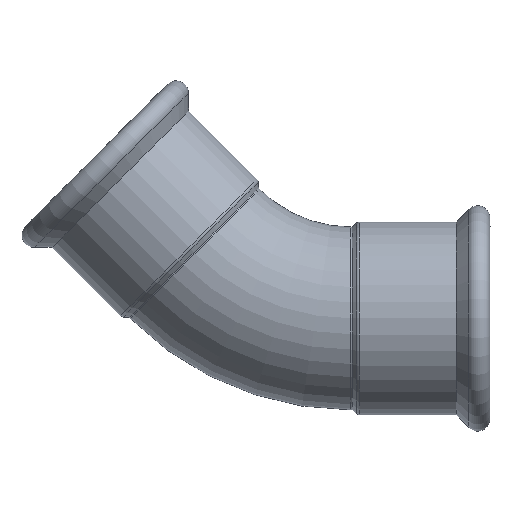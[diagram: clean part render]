
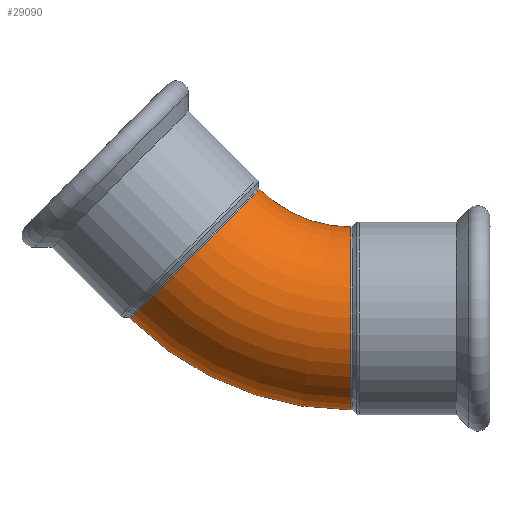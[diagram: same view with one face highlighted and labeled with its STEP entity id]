
A CAD part, top view. The second image highlights one B-rep face of the part: STEP entity #29090.
In plain terms, the highlighted toroidal (fillet/blend) face has major radius 107 mm and minor radius 44.45 mm.
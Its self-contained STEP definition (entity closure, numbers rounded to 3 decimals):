
#13560=CARTESIAN_POINT('',(3.321,-44.45,0.
));
#13570=VERTEX_POINT('',#13560);
#13650=CARTESIAN_POINT('',(3.321,44.45,0.));
#13660=VERTEX_POINT('',#13650);
#13790=CARTESIAN_POINT('',(3.321,-107.,0.));
#13800=DIRECTION('',(0.,0.,1.));
#13810=DIRECTION('',(0.,1.,0.));
#13820=AXIS2_PLACEMENT_3D('',#13790,#13800,#13810);
#13830=TOROIDAL_SURFACE('',#13820,107.,44.45);
#13840=CARTESIAN_POINT('',(3.321,-107.,0.)
);
#13850=DIRECTION('',(0.,0.,1.));
#13860=DIRECTION('',(0.,1.,0.));
#13870=AXIS2_PLACEMENT_3D('',#13840,#13850,#13860);
#13880=CIRCLE('',#13870,62.55);
#13890=CARTESIAN_POINT('',(-40.909,-62.77,
0.));
#13900=VERTEX_POINT('',#13890);
#13910=EDGE_CURVE('',#13570,#13900,#13880,.T.);
#13940=CARTESIAN_POINT('',(3.321,-107.,0.)
);
#13950=DIRECTION('',(0.,0.,1.));
#13960=DIRECTION('',(0.,1.,0.));
#13970=AXIS2_PLACEMENT_3D('',#13940,#13950,#13960);
#13980=CIRCLE('',#13970,151.45);
#13990=CARTESIAN_POINT('',(-103.77,0.091,
0.));
#14000=VERTEX_POINT('',#13990);
#14010=EDGE_CURVE('',#13660,#14000,#13980,.T.);
#14030=CARTESIAN_POINT('',(-72.34,-31.34,0.));
#14040=DIRECTION('',(0.707,0.707,0.));
#14050=DIRECTION('',(-0.707,0.707,0.));
#14060=AXIS2_PLACEMENT_3D('',#14030,#14040,#14050);
#14070=CIRCLE('',#14060,44.45);
#28960=EDGE_CURVE('',#14000,#13900,#14070,.T.);
#28970=ORIENTED_EDGE('',*,*,#28960,.T.);
#28980=ORIENTED_EDGE('',*,*,#14010,.T.);
#28990=CARTESIAN_POINT('',(3.321,0.,0.));
#29000=DIRECTION('',(-1.,0.,0.));
#29010=DIRECTION('',(0.,1.,0.));
#29020=AXIS2_PLACEMENT_3D('',#28990,#29000,#29010);
#29030=CIRCLE('',#29020,44.45);
#29040=EDGE_CURVE('',#13570,#13660,#29030,.T.);
#29050=ORIENTED_EDGE('',*,*,#29040,.T.);
#29060=ORIENTED_EDGE('',*,*,#13910,.F.);
#29070=EDGE_LOOP('',(#29060,#29050,#28980,#28970));
#29080=FACE_OUTER_BOUND('',#29070,.T.);
#29090=ADVANCED_FACE('',(#29080),#13830,.T.);
